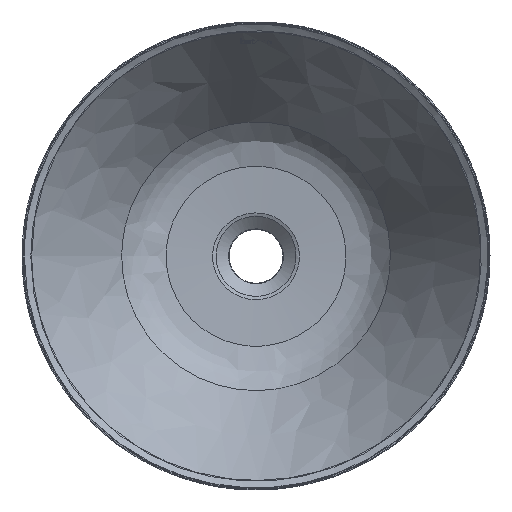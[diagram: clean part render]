
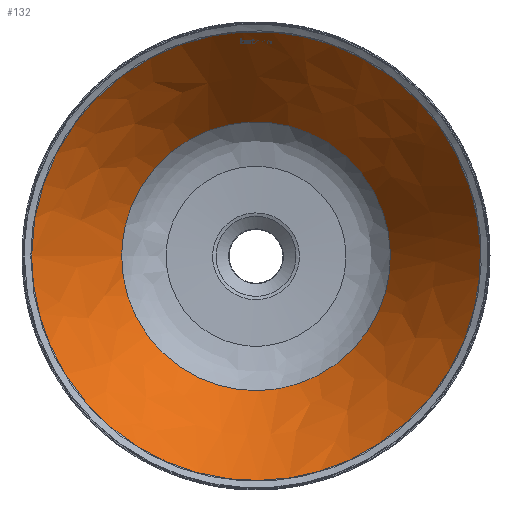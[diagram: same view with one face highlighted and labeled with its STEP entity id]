
A CAD part, top view. The second image highlights one B-rep face of the part: STEP entity #132.
In plain terms, the highlighted free-form (B-spline) face has degree [2, 1] with [9, 2] control points.
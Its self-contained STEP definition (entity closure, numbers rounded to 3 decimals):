
#132=ADVANCED_FACE('',(#254),#1801,.T.);
#254=FACE_OUTER_BOUND('',#376,.T.);
#376=EDGE_LOOP('',(#900,#901,#902,#903));
#900=ORIENTED_EDGE('',*,*,#1188,.F.);
#901=ORIENTED_EDGE('',*,*,#1209,.T.);
#902=ORIENTED_EDGE('',*,*,#1197,.F.);
#903=ORIENTED_EDGE('',*,*,#1209,.F.);
#1188=EDGE_CURVE('',#1676,#1676,#1484,.T.);
#1197=EDGE_CURVE('',#1681,#1681,#1491,.T.);
#1209=EDGE_CURVE('',#1676,#1681,#1440,.T.);
#1440=B_SPLINE_CURVE_WITH_KNOTS('',1,(#6395,#6396),.UNSPECIFIED.,.F.,.F.,
(2,2),(79.805,218.526),.UNSPECIFIED.);
#1484=(
BOUNDED_CURVE()
B_SPLINE_CURVE(2,(#6268,#6269,#6270,#6271,#6272,#6273,#6274,#6275,#6276),
 .UNSPECIFIED.,.T.,.F.)
B_SPLINE_CURVE_WITH_KNOTS((3,2,2,2,3),(-1207.235,-905.426,
-603.617,-301.809,0.),.UNSPECIFIED.)
CURVE()
GEOMETRIC_REPRESENTATION_ITEM()
RATIONAL_B_SPLINE_CURVE((1.,0.707,1.,0.707,1.,0.707,
1.,0.707,1.))
REPRESENTATION_ITEM('')
);
#1491=(
BOUNDED_CURVE()
B_SPLINE_CURVE(2,(#6323,#6324,#6325,#6326,#6327,#6328,#6329,#6330,#6331),
 .UNSPECIFIED.,.T.,.F.)
B_SPLINE_CURVE_WITH_KNOTS((3,2,2,2,3),(0.,180.063,360.127,
540.19,720.254),.UNSPECIFIED.)
CURVE()
GEOMETRIC_REPRESENTATION_ITEM()
RATIONAL_B_SPLINE_CURVE((1.,0.707,1.,0.707,1.,0.707,
1.,0.707,1.))
REPRESENTATION_ITEM('')
);
#1676=VERTEX_POINT('',#6197);
#1681=VERTEX_POINT('',#6202);
#1801=(
BOUNDED_SURFACE()
B_SPLINE_SURFACE(2,1,((#5768,#5769),(#5770,#5771),(#5772,#5773),(#5774,
#5775),(#5776,#5777),(#5778,#5779),(#5780,#5781),(#5782,#5783),(#5784,#5785)),
 .UNSPECIFIED.,.T.,.F.,.F.)
B_SPLINE_SURFACE_WITH_KNOTS((3,2,2,2,3),(2,2),(0.,300.759,601.518,
902.278,1203.037),(79.805,218.526),
 .UNSPECIFIED.)
GEOMETRIC_REPRESENTATION_ITEM()
RATIONAL_B_SPLINE_SURFACE(((1.,1.),(0.707,0.707),
(1.,1.),(0.707,0.707),(1.,1.),(0.707,
0.707),(1.,1.),(0.707,0.707),(1.,1.)))
REPRESENTATION_ITEM('')
SURFACE()
);
#5768=CARTESIAN_POINT('',(1823.84,411.021,55.351));
#5769=CARTESIAN_POINT('',(1900.677,411.021,-57.132));
#5770=CARTESIAN_POINT('',(1823.84,219.552,55.351));
#5771=CARTESIAN_POINT('',(1900.677,296.389,-57.132));
#5772=CARTESIAN_POINT('',(2015.309,219.552,55.351));
#5773=CARTESIAN_POINT('',(2015.309,296.389,-57.132));
#5774=CARTESIAN_POINT('',(2206.778,219.552,55.351));
#5775=CARTESIAN_POINT('',(2129.941,296.389,-57.132));
#5776=CARTESIAN_POINT('',(2206.778,411.021,55.351));
#5777=CARTESIAN_POINT('',(2129.941,411.021,-57.132));
#5778=CARTESIAN_POINT('',(2206.778,602.49,55.351));
#5779=CARTESIAN_POINT('',(2129.941,525.653,-57.132));
#5780=CARTESIAN_POINT('',(2015.309,602.49,55.351));
#5781=CARTESIAN_POINT('',(2015.309,525.653,-57.132));
#5782=CARTESIAN_POINT('',(1823.84,602.49,55.351));
#5783=CARTESIAN_POINT('',(1900.677,525.653,-57.132));
#5784=CARTESIAN_POINT('',(1823.84,411.021,55.351));
#5785=CARTESIAN_POINT('',(1900.677,411.021,-57.132));
#6197=CARTESIAN_POINT('',(1823.84,411.021,55.351));
#6202=CARTESIAN_POINT('',(1900.677,411.021,-57.132));
#6268=CARTESIAN_POINT('',(1823.84,411.021,55.351));
#6269=CARTESIAN_POINT('',(1823.84,602.49,55.351));
#6270=CARTESIAN_POINT('',(2015.309,602.49,55.351));
#6271=CARTESIAN_POINT('',(2206.778,602.49,55.351));
#6272=CARTESIAN_POINT('',(2206.778,411.021,55.351));
#6273=CARTESIAN_POINT('',(2206.778,219.552,55.351));
#6274=CARTESIAN_POINT('',(2015.309,219.552,55.351));
#6275=CARTESIAN_POINT('',(1823.84,219.552,55.351));
#6276=CARTESIAN_POINT('',(1823.84,411.021,55.351));
#6323=CARTESIAN_POINT('',(1900.677,411.021,-57.132));
#6324=CARTESIAN_POINT('',(1900.677,296.389,-57.132));
#6325=CARTESIAN_POINT('',(2015.309,296.389,-57.132));
#6326=CARTESIAN_POINT('',(2129.941,296.389,-57.132));
#6327=CARTESIAN_POINT('',(2129.941,411.021,-57.132));
#6328=CARTESIAN_POINT('',(2129.941,525.653,-57.132));
#6329=CARTESIAN_POINT('',(2015.309,525.653,-57.132));
#6330=CARTESIAN_POINT('',(1900.677,525.653,-57.132));
#6331=CARTESIAN_POINT('',(1900.677,411.021,-57.132));
#6395=CARTESIAN_POINT('',(1823.84,411.021,55.351));
#6396=CARTESIAN_POINT('',(1900.677,411.021,-57.132));
